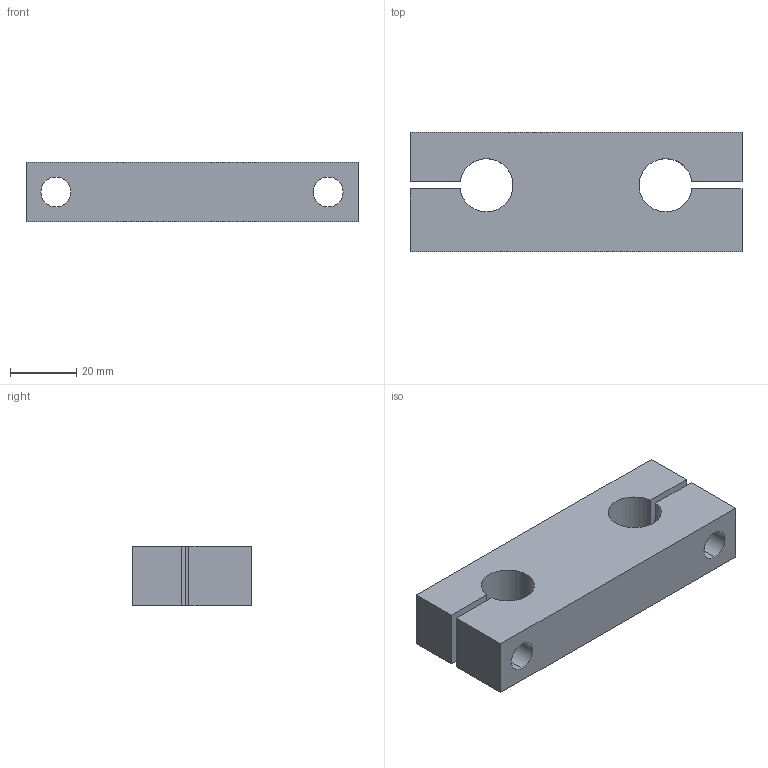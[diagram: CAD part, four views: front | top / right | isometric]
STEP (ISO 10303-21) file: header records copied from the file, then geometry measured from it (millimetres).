
FILE_DESCRIPTION (( 'STEP AP214' ), '1' );
FILE_NAME ('KTA-16.step', '2020-03-04T13:37:48', ( '' ), ( '' ), 'SwSTEP 2.0', 'SolidWorks 2019', '' );
FILE_SCHEMA (( 'AUTOMOTIVE_DESIGN' ));
Length unit declared in the file: millimetre
Products named in the file (1): KTA-16
Bounding box: 100 x 36 x 18 mm (x, y, z)
Volume: 49700 mm3; surface area: 15721.5 mm2
Topology: 1 solids, 1 shells, 35 faces, 89 edges, 57 vertices
Faces by surface type: cylinder 17, plane 14, cone 4
Entity records: 1103 total; most frequent: DIRECTION 195, CARTESIAN_POINT 180, ORIENTED_EDGE 174, EDGE_CURVE 87, AXIS2_PLACEMENT_3D 72, VERTEX_POINT 57, LINE 51, VECTOR 51
